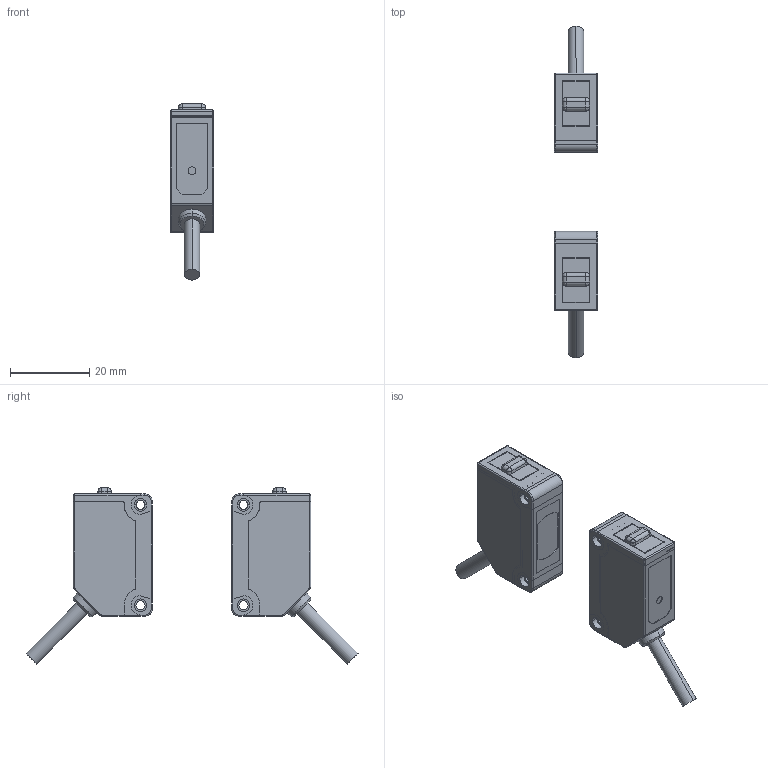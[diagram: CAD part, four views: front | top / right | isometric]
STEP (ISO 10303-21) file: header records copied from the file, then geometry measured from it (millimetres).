
FILE_DESCRIPTION (( 'STEP AP214' ), '1' );
FILE_NAME ('PF31-T10BNC(E)寞跡抎.STEP', '2025-08-22T03:21:28', ( 'Windows User' ), ( 'P R C' ), 'SwSTEP 2.0', 'SolidWorks 2023', '' );
FILE_SCHEMA (( 'AUTOMOTIVE_DESIGN' ));
Length unit declared in the file: millimetre
Products named in the file (11): PF31-PCB-F_FOLD_1_1.STEP; PF31-001_J_1_1.STEP; BIAOJIAO_J_1_1.STEP; PF31-005_J_1_1.STEP; PCB01_J_1_1.STEP; PF31-T10BNC(E)规格书; PF31-006_J_1_1.STEP; GUANGLAN_1_1.STEP; PF31X-DENGZBHAO-F_F_1_1.STEP; PF31-T10BNC(E)规格书.STEP; PF31-DUISHE_J_1_1.STEP
Assembly tree (11 placements, depth 3):
  PF31-T10BNC(E)规格书
    PF31-T10BNC(E)规格书.STEP  x2
      PF31-DUISHE_J_1_1.STEP
      PF31-005_J_1_1.STEP
      PF31-001_J_1_1.STEP
      PF31-006_J_1_1.STEP
      BIAOJIAO_J_1_1.STEP
      PCB01_J_1_1.STEP
      GUANGLAN_1_1.STEP
      PF31X-DENGZBHAO-F_F_1_1.STEP
      PF31-PCB-F_FOLD_1_1.STEP
Bounding box: 11 x 84.01 x 44.57 mm (x, y, z)
Volume: 9380.6 mm3; surface area: 19910.1 mm2
Topology: 30 solids, 40 shells, 2846 faces, 7626 edges, 4944 vertices
Faces by surface type: plane 2126, cylinder 550, cone 56, sphere 52, bspline 34, torus 28
Entity records: 45347 total; most frequent: CARTESIAN_POINT 9543, ORIENTED_EDGE 7540, DIRECTION 6977, EDGE_CURVE 3779, VECTOR 3011, LINE 3011, VERTEX_POINT 2464, AXIS2_PLACEMENT_3D 1983
